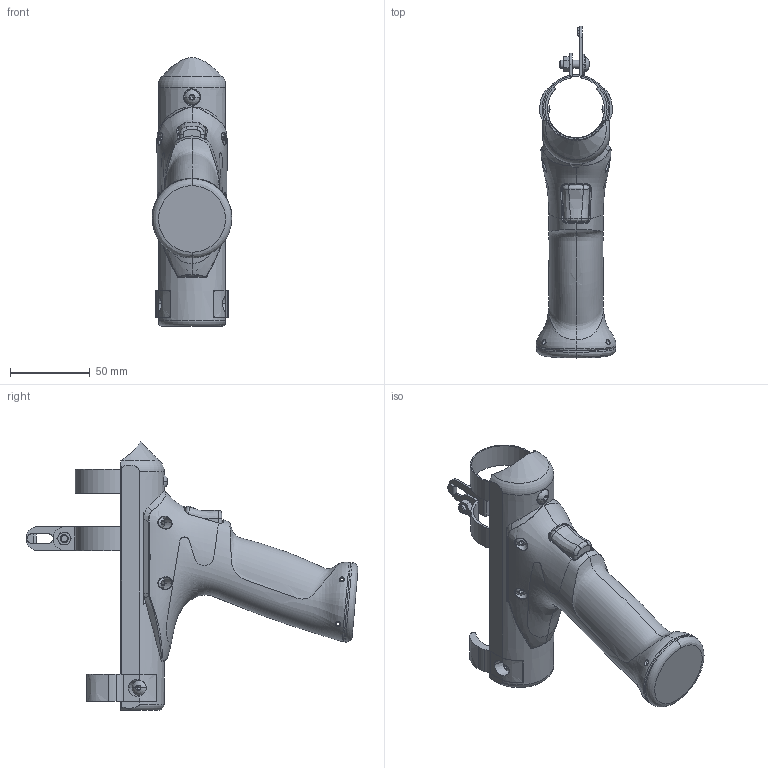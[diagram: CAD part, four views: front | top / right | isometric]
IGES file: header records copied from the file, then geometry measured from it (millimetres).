
Start section:  PTC IGES file: 6153900590.igs
Global section: file name: 6153900590.igs; native system: Creo Parametric by Parametric Technology Corporation; preprocessor: 2014200; author: greextsd; organization: Unknown; date: 20140923.114323; units: millimetre
Bounding box: 50.06 x 208.54 x 168.98 mm (x, y, z)
Volume: 168887.3 mm3; surface area: 88662.4 mm2
Topology: 5 solids, 6 shells, 1475 faces, 3643 edges, 2183 vertices
Faces by surface type: bspline 741, revolution 726, extrusion 8
